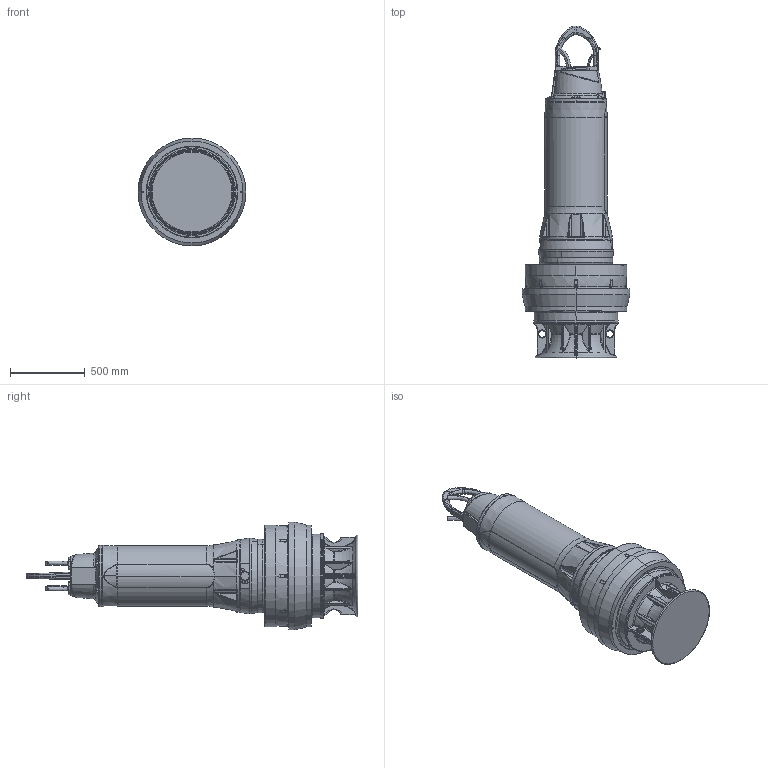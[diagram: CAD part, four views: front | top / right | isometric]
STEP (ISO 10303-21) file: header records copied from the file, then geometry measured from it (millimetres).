
FILE_DESCRIPTION (( 'STEP AP214' ), '1' );
FILE_NAME ('PE5_AFLX0700_STD_B_NG2.STEP', '2017-04-10T11:20:20', ( '' ), ( '' ), 'SwSTEP 2.0', 'SolidWorks 2017', '' );
FILE_SCHEMA (( 'AUTOMOTIVE_DESIGN' ));
Length unit declared in the file: millimetre
Products named in the file (1): PE5_AFLX0700_STD_B_NG2
Bounding box: 719 x 2213.37 x 719 mm (x, y, z)
Volume: 337116179 mm3; surface area: 4623593.4 mm2
Topology: 3 solids, 3 shells, 1353 faces, 3323 edges, 1960 vertices
Faces by surface type: bspline 543, cylinder 290, plane 212, torus 174, cone 116, sphere 18
Entity records: 138367 total; most frequent: CARTESIAN_POINT 95946, ORIENTED_EDGE 6570, DIRECTION 4756, EDGE_CURVE 3285, AXIS2_PLACEMENT_3D 2069, VERTEX_POINT 1960, EDGE_LOOP 1403, UNCERTAINTY_MEASURE_WITH_UNIT 1358
